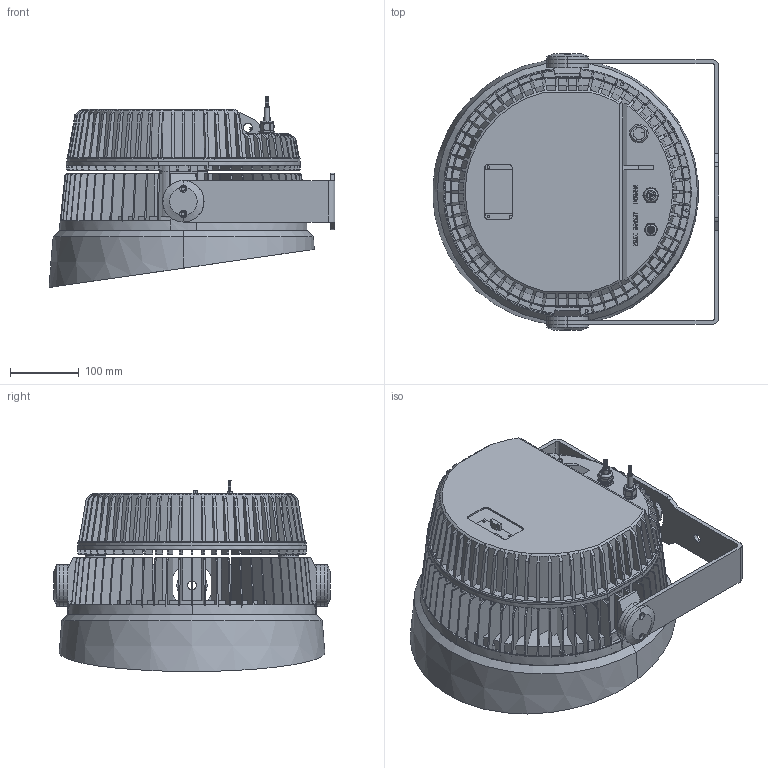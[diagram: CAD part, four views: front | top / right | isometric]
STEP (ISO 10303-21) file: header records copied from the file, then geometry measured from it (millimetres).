
FILE_DESCRIPTION (( 'STEP AP203' ), '1' );
FILE_NAME ('EW-300-0126_asm.STEP', '2016-01-18T07:29:53', ( 'Martin Gruppen A/S' ), ( 'Martin Gruppen A/S' ), 'SwSTEP 2.0', 'SolidWorks 2014', '' );
FILE_SCHEMA (( 'CONFIG_CONTROL_DESIGN' ));
Length unit declared in the file: millimetre
Products named in the file (1): EW-300-0126_asm
Bounding box: 414.84 x 401 x 276.2 mm (x, y, z)
Surface area: 1439588.5 mm2 (no closed solid volume)
Topology: 0 solids, 33 shells, 1343 faces, 5054 edges, 3591 vertices
Faces by surface type: plane 850, cylinder 189, cone 185, bspline 117, torus 2
Entity records: 62275 total; most frequent: CARTESIAN_POINT 23502, ORIENTED_EDGE 8347, DIRECTION 6655, EDGE_CURVE 5054, VERTEX_POINT 3591, LINE 2457, VECTOR 2457, AXIS2_PLACEMENT_3D 2099
